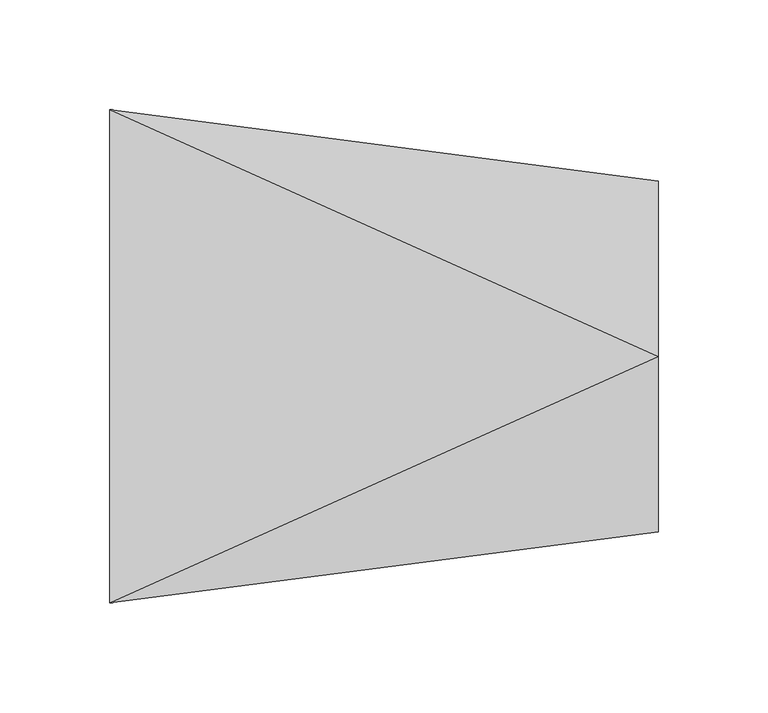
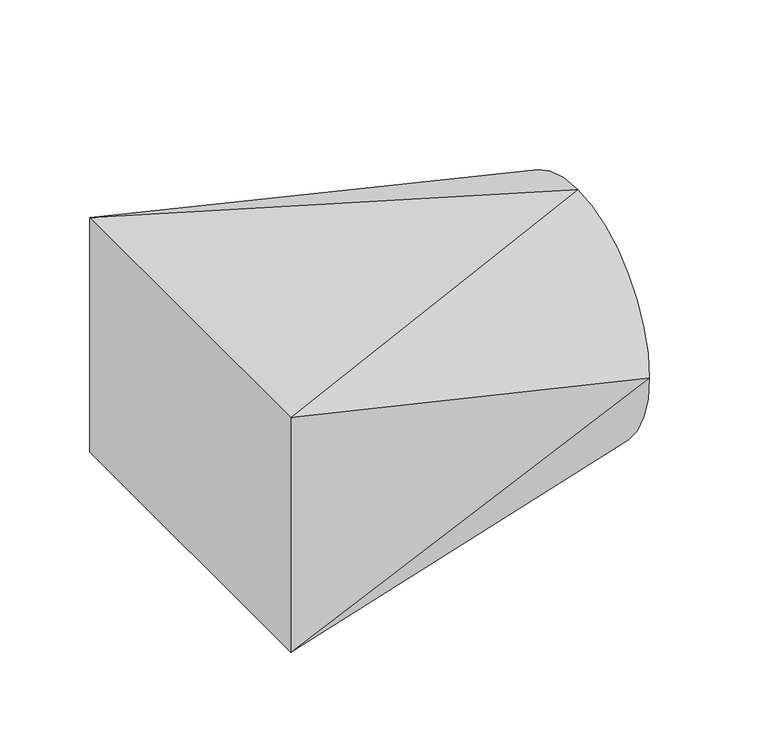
"""IFC4 building model written with IfcOpenShell, lengths in millimetres: duct fitting geometry, Prihoda Square Circular Reducer : Prihoda Square Circular Reducer."""

from ifc_helpers import new_model, si_unit, frame, origin, place, context, project, spatial, circle_curve, source, transform, mapped, element, save
from ifc_brep_helpers import plane_surface, spline_surface, advanced_brep


def duct_fitting_9dfc74d0(model_context):
    return source(origin(), model_context, "Body", "AdvancedBrep", [
        advanced_brep(
        [(250.0, 80.0, 0.0), (250.0, 0.0, 80.0), (250.0, -80.0, 0.0), (250.0, 0.0, -80.0), (0.0, 112.5, 80.0), (0.0, 112.5, -80.0), (0.0, -112.5, -80.0), (0.0, -112.5, 80.0)],
        [
            (0, 1, circle_curve(frame((250.0, 0.0, 0.0), z_axis=(1.0, 0.0, 0.0), x_axis=(0.0, 1.0, 0.0)), 80.0)),
            (1, 2, circle_curve(frame((250.0, 0.0, 0.0), z_axis=(1.0, 0.0, 0.0), x_axis=(0.0, 1.0, 0.0)), 80.0)),
            (2, 3, circle_curve(frame((250.0, 0.0, 0.0), z_axis=(1.0, 0.0, 0.0), x_axis=(0.0, 1.0, 0.0)), 80.0)),
            (3, 0, circle_curve(frame((250.0, 0.0, 0.0), z_axis=(1.0, 0.0, 0.0), x_axis=(0.0, 1.0, 0.0)), 80.0)),
            (4, 5),
            (5, 6),
            (6, 7),
            (7, 4),
            (0, 4),
            (4, 1),
            (7, 1),
            (7, 2),
            (6, 2),
            (6, 3),
            (5, 3),
            (5, 0),
        ],
        [
            plane_surface(frame((250.0, 0.0, 0.0), z_axis=(1.0, 0.0, 0.0), x_axis=(0.0, -1.0, 0.0))),
            plane_surface(frame((0.0, 0.0, 0.0), z_axis=(-1.0, 0.0, 0.0), x_axis=(0.0, -1.0, 0.0))),
            spline_surface(2, 1, [[(0.0, 112.5, 80.0), (250.0, 80.0, 0.0)], [(0.0, 112.5, 80.0), (250.0, 80.0, 80.0)], [(0.0, 112.5, 80.0), (250.0, 0.0, 80.0)]], [3, 3], [2, 2], [0.0, 1.0], [0.0, 1.0], weights=[[1.0, 1.0], [0.7071067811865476, 0.7071067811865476], [1.0, 1.0]]),
            plane_surface(frame((0.0, 0.0, 80.0), z_axis=(0.0, 0.0, 1.0), x_axis=(0.0, -1.0, 0.0))),
            spline_surface(2, 1, [[(0.0, -112.5, 80.0), (250.0, 0.0, 80.0)], [(0.0, -112.5, 80.0), (250.0, -80.0, 80.0)], [(0.0, -112.5, 80.0), (250.0, -80.0, 0.0)]], [3, 3], [2, 2], [0.0, 1.0], [0.0, 1.0], weights=[[1.0, 1.0], [0.7071067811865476, 0.7071067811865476], [1.0, 1.0]]),
            plane_surface(frame((0.0, -112.5, 0.0), z_axis=(0.12891523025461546, -0.9916556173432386, 0.0), x_axis=(0.0, 0.0, -1.0))),
            spline_surface(2, 1, [[(0.0, -112.5, -80.0), (250.0, -80.0, 0.0)], [(0.0, -112.5, -80.0), (250.0, -80.0, -80.0)], [(0.0, -112.5, -80.0), (250.0, 0.0, -80.0)]], [3, 3], [2, 2], [0.0, 1.0], [0.0, 1.0], weights=[[1.0, 1.0], [0.7071067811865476, 0.7071067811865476], [1.0, 1.0]]),
            plane_surface(frame((0.0, 0.0, -80.0), z_axis=(0.0, 0.0, -1.0), x_axis=(0.0, 1.0, 0.0))),
            spline_surface(2, 1, [[(0.0, 112.5, -80.0), (250.0, 0.0, -80.0)], [(0.0, 112.5, -80.0), (250.0, 80.0, -80.0)], [(0.0, 112.5, -80.0), (250.0, 80.0, 0.0)]], [3, 3], [2, 2], [0.0, 1.0], [0.0, 1.0], weights=[[1.0, 1.0], [0.7071067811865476, 0.7071067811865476], [1.0, 1.0]]),
            plane_surface(frame((0.0, 112.5, 0.0), z_axis=(0.12891523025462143, 0.9916556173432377, 0.0), x_axis=(0.0, 0.0, 1.0))),
        ],
        [
            (0, [[1, 2, 3, 4]]),
            (1, [[5, 6, 7, 8]]),
            (2, [[-1, 9, 10]]),
            (3, [[-8, 11, -10]]),
            (4, [[-2, -11, 12]]),
            (5, [[-7, 13, -12]]),
            (6, [[-3, -13, 14]]),
            (7, [[-6, 15, -14]]),
            (8, [[-4, -15, 16]]),
            (9, [[-5, -9, -16]]),
        ],
    ),
    ])


if __name__ == "__main__":
    model = new_model("IFC4")
    model_context = context("Model", 3, world=origin())
    ifc_project = project(units=[si_unit("LENGTHUNIT", "METRE", prefix="MILLI")], contexts=[model_context])
    site = spatial("IfcSite", under=ifc_project)
    building = spatial("IfcBuilding", under=site)
    placement = place(None, origin())
    duct_fitting_shape = duct_fitting_9dfc74d0(model_context)
    element("IfcDuctFitting", 1, ObjectType="Prihoda Square Circular Reducer : Prihoda Square Circular Reducer", at=placement, inside=building, context=model_context, shape_type="MappedRepresentation", body=[
        mapped(duct_fitting_shape, transform((0.0, 0.0, 0.0), x_axis=(1.0, 0.0, 0.0), y_axis=(0.0, 1.0, 0.0), z_axis=(0.0, 0.0, 1.0))),
    ])
    save(model, "model.ifc")
